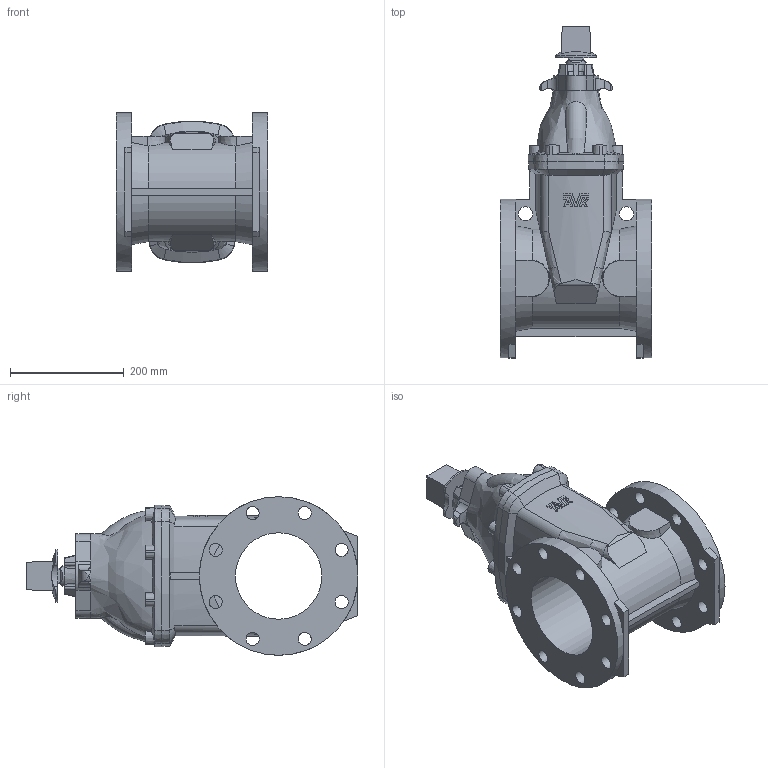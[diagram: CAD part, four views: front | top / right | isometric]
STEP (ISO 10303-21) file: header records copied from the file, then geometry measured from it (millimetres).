
FILE_DESCRIPTION (( 'STEP AP203' ), '1' );
FILE_NAME ('O_45_59_DN150_X1XXX_AA1.step', '2017-09-22T05:47:18', ( 'Windows User' ), ( 'AVK' ), 'SwSTEP 2.0', 'SolidWorks 2012', '' );
FILE_SCHEMA (( 'CONFIG_CONTROL_DESIGN' ));
Length unit declared in the file: millimetre
Products named in the file (1): O_45_59_DN150_X1XXX_AA1
Bounding box: 267 x 584.7 x 279.4 mm (x, y, z)
Volume: 10779018.4 mm3; surface area: 694753.9 mm2
Topology: 1 solids, 1 shells, 305 faces, 848 edges, 554 vertices
Faces by surface type: plane 116, cone 73, cylinder 66, bspline 42, torus 8
Full cylindrical faces by diameter (mm): 23 x16, 25 x2, 36 x1, 152.4 x1, 279.4 x2
Entity records: 14850 total; most frequent: CARTESIAN_POINT 7855, ORIENTED_EDGE 1606, DIRECTION 1181, EDGE_CURVE 803, VERTEX_POINT 535, AXIS2_PLACEMENT_3D 474, EDGE_LOOP 378, FACE_OUTER_BOUND 328
